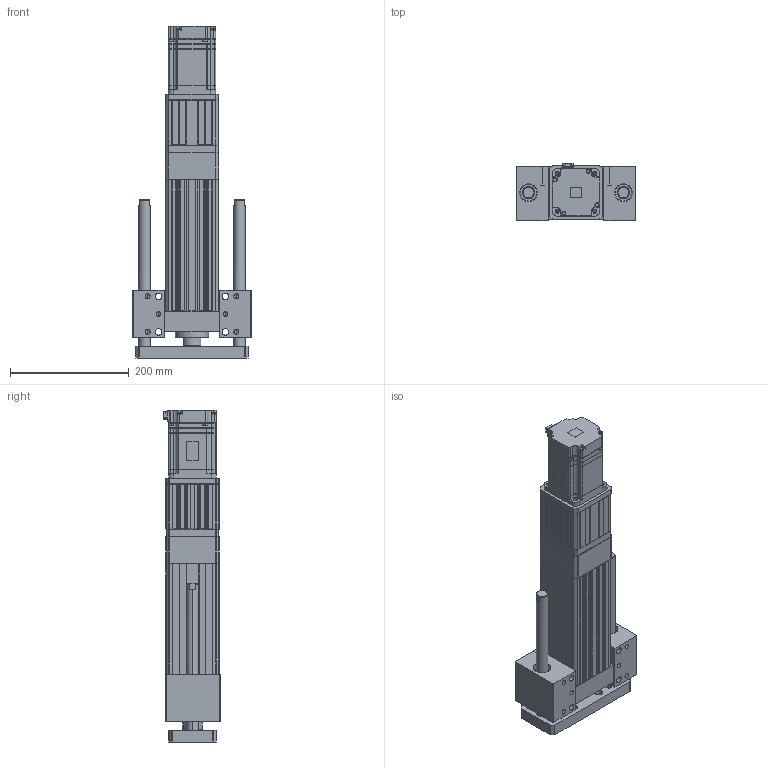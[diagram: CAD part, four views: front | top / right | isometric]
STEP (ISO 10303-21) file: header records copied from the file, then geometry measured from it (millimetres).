
FILE_DESCRIPTION (( 'STEP AP203' ), '1' );
FILE_NAME ('ANS090R-HS100-05(10)(20)-W75.STEP', '2019-03-02T09:14:19', ( 'user' ), ( '' ), 'SwSTEP 2.0', 'SolidWorks 2013', '' );
FILE_SCHEMA (( 'CONFIG_CONTROL_DESIGN' ));
Length unit declared in the file: millimetre
Products named in the file (4): ANS090 ROD ST100-H; ANS090R-HS100-05(10)(20)-W75; ANS090R HS100 VER2; SGMJV_08A_A21
Assembly tree (3 placements, depth 2):
  ANS090R-HS100-05(10)(20)-W75
    ANS090R HS100 VER2
    SGMJV_08A_A21
    ANS090 ROD ST100-H
Bounding box: 200 x 95.8 x 560.1 mm (x, y, z)
Volume: 3608501.4 mm3; surface area: 546421.2 mm2
Topology: 3 solids, 3 shells, 1600 faces, 4288 edges, 2780 vertices
Faces by surface type: plane 982, cylinder 486, cone 128, bspline 4
Entity records: 50298 total; most frequent: CARTESIAN_POINT 9440, ORIENTED_EDGE 8528, DIRECTION 8312, EDGE_CURVE 4264, VECTOR 3080, LINE 3080, VERTEX_POINT 2780, AXIS2_PLACEMENT_3D 2616
